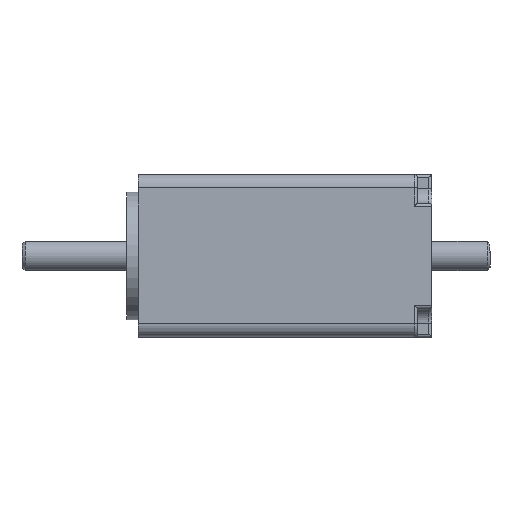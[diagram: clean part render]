
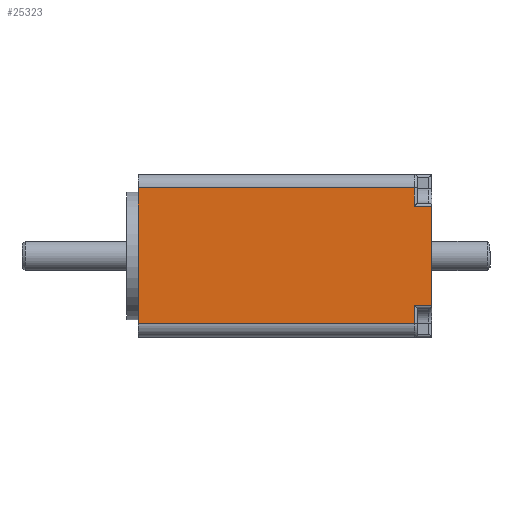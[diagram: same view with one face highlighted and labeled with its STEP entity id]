
A CAD part, top view. The second image highlights one B-rep face of the part: STEP entity #25323.
In plain terms, the highlighted planar face has unit normal (0, 0, 1).
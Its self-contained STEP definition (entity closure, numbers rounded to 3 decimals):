
#15308=CARTESIAN_POINT('',(50.55,8.55,14.));
#15309=VERTEX_POINT('',#15308);
#15316=CARTESIAN_POINT('',(50.55,-8.55,14.));
#15317=VERTEX_POINT('',#15316);
#15318=CARTESIAN_POINT('',(50.55,8.55,14.));
#15319=DIRECTION('',(0.,-1.,0.));
#15320=VECTOR('',#15319,17.1);
#15321=LINE('',#15318,#15320);
#15322=EDGE_CURVE('',#15309,#15317,#15321,.T.);
#16310=CARTESIAN_POINT('',(47.55,8.55,14.));
#16311=VERTEX_POINT('',#16310);
#16321=CARTESIAN_POINT('',(47.55,8.55,14.));
#16322=DIRECTION('',(1.,0.,0.));
#16323=VECTOR('',#16322,3.);
#16324=LINE('',#16321,#16323);
#16325=EDGE_CURVE('',#16311,#15309,#16324,.T.);
#16335=CARTESIAN_POINT('',(47.55,-11.7,14.));
#16336=VERTEX_POINT('',#16335);
#16354=CARTESIAN_POINT('',(47.55,-8.55,14.));
#16355=VERTEX_POINT('',#16354);
#16365=CARTESIAN_POINT('',(47.55,-8.55,14.));
#16366=DIRECTION('',(0.,-1.,0.));
#16367=VECTOR('',#16366,3.15);
#16368=LINE('',#16365,#16367);
#16369=EDGE_CURVE('',#16355,#16336,#16368,.T.);
#16379=CARTESIAN_POINT('',(50.55,-8.55,14.));
#16380=DIRECTION('',(-1.,0.,0.));
#16381=VECTOR('',#16380,3.);
#16382=LINE('',#16379,#16381);
#16383=EDGE_CURVE('',#15317,#16355,#16382,.T.);
#16403=CARTESIAN_POINT('',(47.55,11.7,14.));
#16404=VERTEX_POINT('',#16403);
#16412=CARTESIAN_POINT('',(47.55,11.7,14.));
#16413=DIRECTION('',(0.,-1.,0.));
#16414=VECTOR('',#16413,3.15);
#16415=LINE('',#16412,#16414);
#16416=EDGE_CURVE('',#16404,#16311,#16415,.T.);
#24959=CARTESIAN_POINT('',(0.,11.7,14.));
#24960=VERTEX_POINT('',#24959);
#24968=CARTESIAN_POINT('',(47.55,11.7,14.));
#24969=DIRECTION('',(-1.,0.,0.));
#24970=VECTOR('',#24969,47.55);
#24971=LINE('',#24968,#24970);
#24972=EDGE_CURVE('',#16404,#24960,#24971,.T.);
#24983=CARTESIAN_POINT('',(0.,-11.7,14.));
#24984=VERTEX_POINT('',#24983);
#24985=CARTESIAN_POINT('',(47.55,-11.7,14.));
#24986=DIRECTION('',(-1.,0.,0.));
#24987=VECTOR('',#24986,47.55);
#24988=LINE('',#24985,#24987);
#24989=EDGE_CURVE('',#16336,#24984,#24988,.T.);
#25303=CARTESIAN_POINT('',(31.275,0.,14.));
#25304=DIRECTION('',(0.,1.,0.));
#25305=DIRECTION('',(0.,-0.,1.));
#25306=AXIS2_PLACEMENT_3D('',#25303,#25305,#25304);
#25307=PLANE('',#25306);
#25308=ORIENTED_EDGE('',*,*,#16369,.F.);
#25309=ORIENTED_EDGE('',*,*,#16383,.F.);
#25310=ORIENTED_EDGE('',*,*,#15322,.F.);
#25311=ORIENTED_EDGE('',*,*,#16325,.F.);
#25312=ORIENTED_EDGE('',*,*,#16416,.F.);
#25313=ORIENTED_EDGE('',*,*,#24972,.T.);
#25314=CARTESIAN_POINT('',(0.,11.7,14.));
#25315=DIRECTION('',(0.,-1.,0.));
#25316=VECTOR('',#25315,23.4);
#25317=LINE('',#25314,#25316);
#25318=EDGE_CURVE('',#24960,#24984,#25317,.T.);
#25319=ORIENTED_EDGE('E2196',*,*,#25318,.T.);
#25320=ORIENTED_EDGE('E2196',*,*,#24989,.F.);
#25321=EDGE_LOOP('',(#25308,#25309,#25310,#25311,#25312,#25313,#25319,#25320));
#25322=FACE_OUTER_BOUND('',#25321,.T.);
#25323=ADVANCED_FACE('F1601',(#25322),#25307,.T.);
